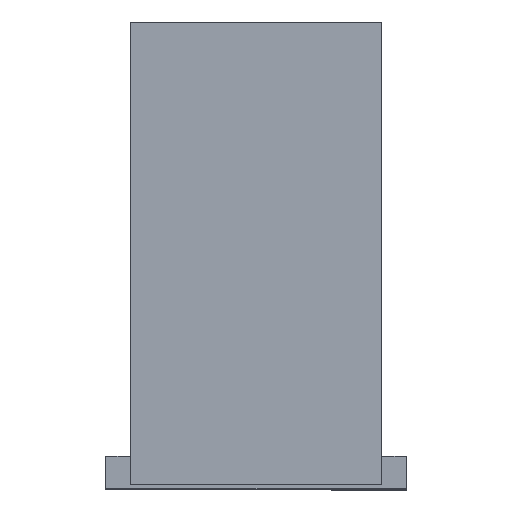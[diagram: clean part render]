
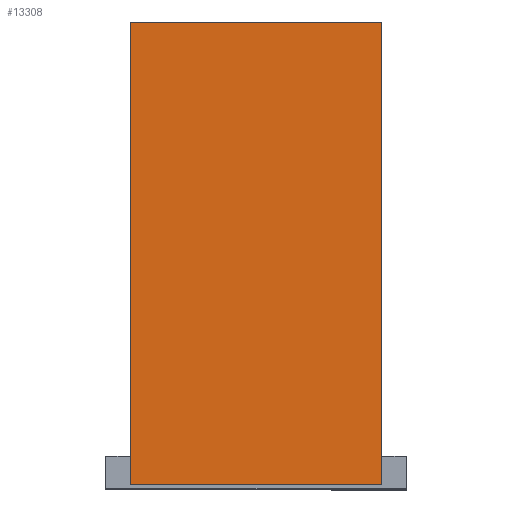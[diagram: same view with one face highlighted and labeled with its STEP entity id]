
A CAD part, top view. The second image highlights one B-rep face of the part: STEP entity #13308.
In plain terms, the highlighted planar face has unit normal (0, 0, 1) as drawn and (-1, 0, 0) by its records, which use the part's own axes.
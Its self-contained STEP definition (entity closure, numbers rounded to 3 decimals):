
#609 = VERTEX_POINT ( 'NONE', #11408 ) ;
#1142 = DIRECTION ( 'NONE',  ( 0., 0., 1. ) ) ;
#1394 = VECTOR ( 'NONE', #1142, 1000. ) ;
#1661 = VECTOR ( 'NONE', #15350, 1000. ) ;
#1824 = VECTOR ( 'NONE', #18072, 1000. ) ;
#2583 = EDGE_CURVE ( 'NONE', #23072, #8162, #20878, .T. ) ;
#2844 = DIRECTION ( 'NONE',  ( -1., 0., 0. ) ) ;
#2924 = EDGE_CURVE ( 'NONE', #609, #23072, #15811, .T. ) ;
#3738 = DIRECTION ( 'NONE',  ( 0., -1., 0. ) ) ;
#5015 = CARTESIAN_POINT ( 'NONE',  ( -315., -155., -155. ) ) ;
#6194 = CARTESIAN_POINT ( 'NONE',  ( -315., -155., -155. ) ) ;
#6315 = ORIENTED_EDGE ( 'NONE', *, *, #2924, .T. ) ;
#6467 = PLANE ( 'NONE',  #15261 ) ;
#6654 = LINE ( 'NONE', #7045, #1824 ) ;
#7045 = CARTESIAN_POINT ( 'NONE',  ( -315., 415., -155. ) ) ;
#8162 = VERTEX_POINT ( 'NONE', #9456 ) ;
#8312 = DIRECTION ( 'NONE',  ( 0., 0., 1. ) ) ;
#8485 = LINE ( 'NONE', #20912, #1661 ) ;
#8847 = ORIENTED_EDGE ( 'NONE', *, *, #20887, .T. ) ;
#9456 = CARTESIAN_POINT ( 'NONE',  ( -315., -155., 155. ) ) ;
#11035 = CARTESIAN_POINT ( 'NONE',  ( -315., 415., -155. ) ) ;
#11408 = CARTESIAN_POINT ( 'NONE',  ( -315., 415., -155. ) ) ;
#11727 = VERTEX_POINT ( 'NONE', #22477 ) ;
#13071 = EDGE_CURVE ( 'NONE', #11727, #609, #6654, .T. ) ;
#13308 = ADVANCED_FACE ( 'NONE', ( #22138 ), #6467, .T. ) ;
#14687 = EDGE_LOOP ( 'NONE', ( #6315, #14698, #8847, #19313 ) ) ;
#14698 = ORIENTED_EDGE ( 'NONE', *, *, #2583, .T. ) ;
#15261 = AXIS2_PLACEMENT_3D ( 'NONE', #19085, #2844, #8312 ) ;
#15350 = DIRECTION ( 'NONE',  ( 0., 1., 0. ) ) ;
#15811 = LINE ( 'NONE', #11035, #18910 ) ;
#18072 = DIRECTION ( 'NONE',  ( 0., 0., -1. ) ) ;
#18910 = VECTOR ( 'NONE', #3738, 1000. ) ;
#19085 = CARTESIAN_POINT ( 'NONE',  ( -315., 0., 0. ) ) ;
#19313 = ORIENTED_EDGE ( 'NONE', *, *, #13071, .T. ) ;
#20878 = LINE ( 'NONE', #5015, #1394 ) ;
#20887 = EDGE_CURVE ( 'NONE', #8162, #11727, #8485, .T. ) ;
#20912 = CARTESIAN_POINT ( 'NONE',  ( -315., 415., 155. ) ) ;
#22138 = FACE_OUTER_BOUND ( 'NONE', #14687, .T. ) ;
#22477 = CARTESIAN_POINT ( 'NONE',  ( -315., 415., 155. ) ) ;
#23072 = VERTEX_POINT ( 'NONE', #6194 ) ;
